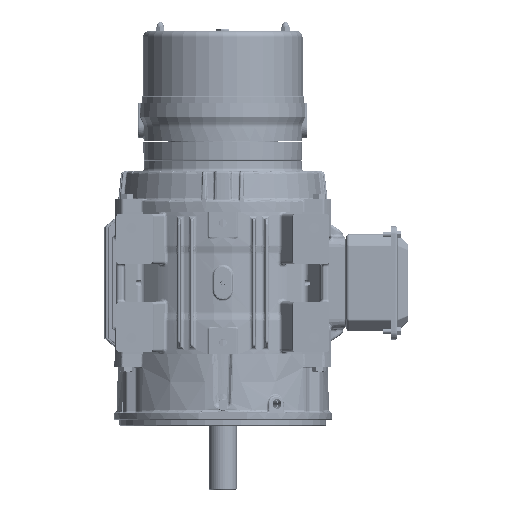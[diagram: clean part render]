
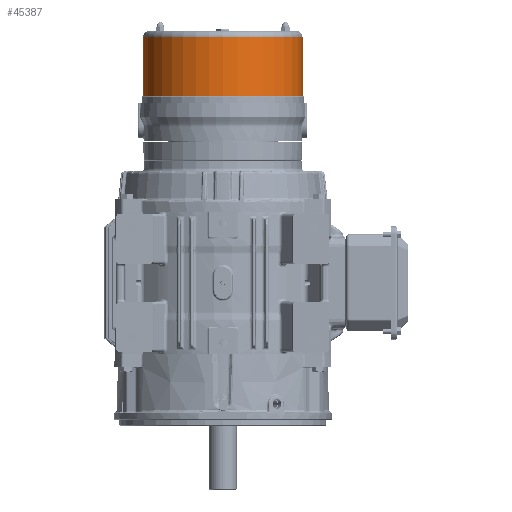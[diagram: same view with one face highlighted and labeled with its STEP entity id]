
A CAD part, front view. The second image highlights one B-rep face of the part: STEP entity #45387.
In plain terms, the highlighted cylindrical face has radius 83.058 mm (diameter 166.116 mm), a partial arc.
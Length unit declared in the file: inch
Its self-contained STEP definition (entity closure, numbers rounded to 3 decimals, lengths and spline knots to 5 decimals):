
#228 = EDGE_LOOP ( 'NONE', ( #37601, #4227, #24058, #95781 ) ) ;
#4227 = ORIENTED_EDGE ( 'NONE', *, *, #88435, .T. ) ;
#24058 = ORIENTED_EDGE ( 'NONE', *, *, #151407, .T. ) ;
#24794 = AXIS2_PLACEMENT_3D ( 'NONE', #251459, #56111, #204632 ) ;
#37601 = ORIENTED_EDGE ( 'NONE', *, *, #251307, .F. ) ;
#45387 = ADVANCED_FACE ( 'NONE', ( #100704 ), #199180, .T. ) ;
#55967 = CARTESIAN_POINT ( 'NONE',  ( -3.27177, -0.00177, 10.08181 ) ) ;
#56111 = DIRECTION ( 'NONE',  ( 0., 0., -1. ) ) ;
#61509 = VERTEX_POINT ( 'NONE', #55967 ) ;
#64612 = EDGE_CURVE ( 'NONE', #174767, #61509, #205269, .T. ) ;
#82876 = DIRECTION ( 'NONE',  ( 0., 0., 1. ) ) ;
#88435 = EDGE_CURVE ( 'NONE', #299328, #158567, #271750, .T. ) ;
#95781 = ORIENTED_EDGE ( 'NONE', *, *, #64612, .T. ) ;
#98127 = CARTESIAN_POINT ( 'NONE',  ( -0.00177, -0.00177, 7.67771 ) ) ;
#100704 = FACE_OUTER_BOUND ( 'NONE', #228, .T. ) ;
#123942 = DIRECTION ( 'NONE',  ( 0., 0., 1. ) ) ;
#145146 = AXIS2_PLACEMENT_3D ( 'NONE', #179787, #82876, #228221 ) ;
#151407 = EDGE_CURVE ( 'NONE', #158567, #174767, #194382, .T. ) ;
#153511 = CARTESIAN_POINT ( 'NONE',  ( -3.27177, -0.00177, 10.91721 ) ) ;
#154489 = VECTOR ( 'NONE', #271458, 39.37008 ) ;
#158567 = VERTEX_POINT ( 'NONE', #168135 ) ;
#165407 = DIRECTION ( 'NONE',  ( 0., 0., 1. ) ) ;
#168135 = CARTESIAN_POINT ( 'NONE',  ( 3.26823, -0.00177, 7.67771 ) ) ;
#174767 = VERTEX_POINT ( 'NONE', #281228 ) ;
#179787 = CARTESIAN_POINT ( 'NONE',  ( -0.00177, -0.00177, 10.91721 ) ) ;
#189603 = CARTESIAN_POINT ( 'NONE',  ( 3.26823, -0.00177, 10.91721 ) ) ;
#192016 = CARTESIAN_POINT ( 'NONE',  ( -3.27177, -0.00177, 7.67771 ) ) ;
#194382 = LINE ( 'NONE', #189603, #313989 ) ;
#196591 = DIRECTION ( 'NONE',  ( 1., 0., 0. ) ) ;
#199180 = CYLINDRICAL_SURFACE ( 'NONE', #145146, 3.27 ) ;
#204632 = DIRECTION ( 'NONE',  ( 1., 0., 0. ) ) ;
#205269 = CIRCLE ( 'NONE', #24794, 3.27 ) ;
#226146 = LINE ( 'NONE', #153511, #154489 ) ;
#228221 = DIRECTION ( 'NONE',  ( 1., 0., 0. ) ) ;
#250986 = AXIS2_PLACEMENT_3D ( 'NONE', #98127, #123942, #196591 ) ;
#251307 = EDGE_CURVE ( 'NONE', #299328, #61509, #226146, .T. ) ;
#251459 = CARTESIAN_POINT ( 'NONE',  ( -0.00177, -0.00177, 10.08181 ) ) ;
#271458 = DIRECTION ( 'NONE',  ( 0., 0., 1. ) ) ;
#271750 = CIRCLE ( 'NONE', #250986, 3.27 ) ;
#281228 = CARTESIAN_POINT ( 'NONE',  ( 3.26823, -0.00177, 10.08181 ) ) ;
#299328 = VERTEX_POINT ( 'NONE', #192016 ) ;
#313989 = VECTOR ( 'NONE', #165407, 39.37008 ) ;
